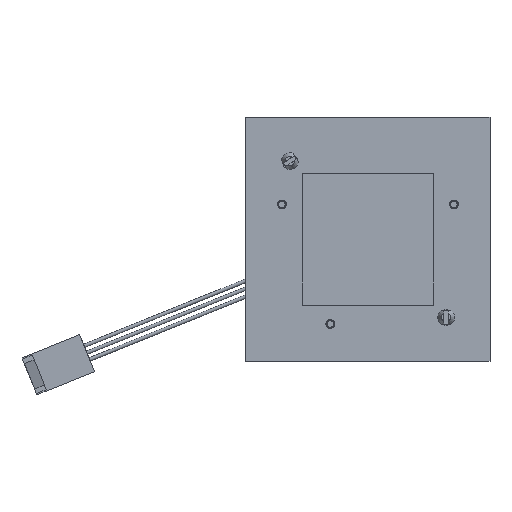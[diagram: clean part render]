
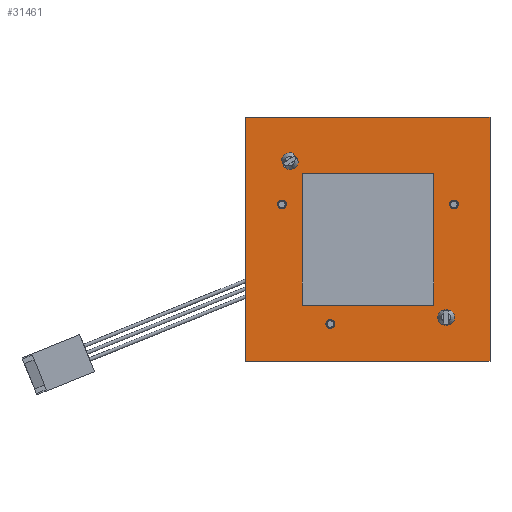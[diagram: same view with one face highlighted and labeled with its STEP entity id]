
A CAD part, front view. The second image highlights one B-rep face of the part: STEP entity #31461.
In plain terms, the highlighted planar face has unit normal (0, -1, 0).
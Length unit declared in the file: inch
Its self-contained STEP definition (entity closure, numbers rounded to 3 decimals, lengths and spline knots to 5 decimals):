
#90 = EDGE_CURVE ( 'NONE', #49510, #49023, #33664, .T. ) ;
#411 = EDGE_CURVE ( 'NONE', #20457, #46184, #40601, .T. ) ;
#518 = EDGE_LOOP ( 'NONE', ( #16531, #42469 ) ) ;
#2352 = ORIENTED_EDGE ( 'NONE', *, *, #411, .F. ) ;
#3234 = VERTEX_POINT ( 'NONE', #24237 ) ;
#4341 = EDGE_LOOP ( 'NONE', ( #7838, #54351 ) ) ;
#5197 = VERTEX_POINT ( 'NONE', #35905 ) ;
#5332 = DIRECTION ( 'NONE',  ( 0., -1., 0. ) ) ;
#5430 = LINE ( 'NONE', #24165, #25992 ) ;
#5472 = EDGE_CURVE ( 'NONE', #57786, #39469, #18585, .T. ) ;
#5659 = DIRECTION ( 'NONE',  ( 0., 0., -1. ) ) ;
#6085 = AXIS2_PLACEMENT_3D ( 'NONE', #47911, #38636, #5659 ) ;
#6506 = DIRECTION ( 'NONE',  ( 0., 0., -1. ) ) ;
#7153 = EDGE_CURVE ( 'NONE', #46184, #20457, #42224, .T. ) ;
#7384 = DIRECTION ( 'NONE',  ( 0., -1., 0. ) ) ;
#7838 = ORIENTED_EDGE ( 'NONE', *, *, #39338, .F. ) ;
#8607 = CARTESIAN_POINT ( 'NONE',  ( 0.98425, 0.01969, 0.98425 ) ) ;
#8772 = DIRECTION ( 'NONE',  ( 0., 0., -1. ) ) ;
#8881 = AXIS2_PLACEMENT_3D ( 'NONE', #9531, #42543, #41606 ) ;
#9531 = CARTESIAN_POINT ( 'NONE',  ( 0.62997, 0.01969, -0.62997 ) ) ;
#9708 = DIRECTION ( 'NONE',  ( 0., -1., 0. ) ) ;
#9983 = DIRECTION ( 'NONE',  ( 0., -1., 0. ) ) ;
#10212 = CARTESIAN_POINT ( 'NONE',  ( 0.62997, 0.01969, -0.56698 ) ) ;
#11409 = VERTEX_POINT ( 'NONE', #32286 ) ;
#11524 = CIRCLE ( 'NONE', #45994, 0.03543 ) ;
#12170 = ORIENTED_EDGE ( 'NONE', *, *, #90, .F. ) ;
#12309 = DIRECTION ( 'NONE',  ( 0., 0., -1. ) ) ;
#12435 = CARTESIAN_POINT ( 'NONE',  ( -0.62999, 0.01969, 0.567 ) ) ;
#13036 = CARTESIAN_POINT ( 'NONE',  ( -0.30425, 0.01969, -0.64793 ) ) ;
#13214 = CIRCLE ( 'NONE', #49533, 0.03543 ) ;
#14027 = AXIS2_PLACEMENT_3D ( 'NONE', #40072, #44995, #12309 ) ;
#15681 = FACE_BOUND ( 'NONE', #19646, .T. ) ;
#15720 = CARTESIAN_POINT ( 'NONE',  ( 0.69356, 0.01969, 0.24478 ) ) ;
#16531 = ORIENTED_EDGE ( 'NONE', *, *, #5472, .F. ) ;
#17718 = CIRCLE ( 'NONE', #8881, 0.06299 ) ;
#18181 = EDGE_LOOP ( 'NONE', ( #26349, #37362, #52438, #24582 ) ) ;
#18585 = CIRCLE ( 'NONE', #38302, 0.03543 ) ;
#19126 = CARTESIAN_POINT ( 'NONE',  ( 0.98425, 0.01969, -0.98425 ) ) ;
#19646 = EDGE_LOOP ( 'NONE', ( #12170, #54230 ) ) ;
#19779 = AXIS2_PLACEMENT_3D ( 'NONE', #58427, #59363, #6506 ) ;
#20240 = PLANE ( 'NONE',  #54664 ) ;
#20457 = VERTEX_POINT ( 'NONE', #50336 ) ;
#20600 = CARTESIAN_POINT ( 'NONE',  ( 0.69356, 0.01969, 0.31565 ) ) ;
#21170 = FACE_OUTER_BOUND ( 'NONE', #18181, .T. ) ;
#21890 = AXIS2_PLACEMENT_3D ( 'NONE', #38901, #5332, #24364 ) ;
#22531 = CARTESIAN_POINT ( 'NONE',  ( 0.98425, 0.01969, 0.98425 ) ) ;
#22793 = EDGE_LOOP ( 'NONE', ( #25364, #49346 ) ) ;
#22804 = EDGE_CURVE ( 'NONE', #24248, #5197, #11524, .T. ) ;
#23156 = EDGE_CURVE ( 'NONE', #50526, #3234, #51812, .T. ) ;
#23949 = DIRECTION ( 'NONE',  ( -1., 0., 0. ) ) ;
#24165 = CARTESIAN_POINT ( 'NONE',  ( 0.98425, 0.01969, -0.98425 ) ) ;
#24237 = CARTESIAN_POINT ( 'NONE',  ( -0.69356, 0.01969, 0.24478 ) ) ;
#24248 = VERTEX_POINT ( 'NONE', #13036 ) ;
#24364 = DIRECTION ( 'NONE',  ( 0., 0., -1. ) ) ;
#24582 = ORIENTED_EDGE ( 'NONE', *, *, #32607, .T. ) ;
#25364 = ORIENTED_EDGE ( 'NONE', *, *, #28669, .F. ) ;
#25422 = ORIENTED_EDGE ( 'NONE', *, *, #7153, .F. ) ;
#25992 = VECTOR ( 'NONE', #53535, 39.37008 ) ;
#26140 = DIRECTION ( 'NONE',  ( 0., 0., -1. ) ) ;
#26349 = ORIENTED_EDGE ( 'NONE', *, *, #42124, .T. ) ;
#27118 = VERTEX_POINT ( 'NONE', #22531 ) ;
#28669 = EDGE_CURVE ( 'NONE', #3234, #50526, #13214, .T. ) ;
#31461 = ADVANCED_FACE ( 'NONE', ( #40074, #15681, #58052, #34189, #34488, #21170 ), #20240, .T. ) ;
#32286 = CARTESIAN_POINT ( 'NONE',  ( -0.98425, 0.01969, 0.98425 ) ) ;
#32607 = EDGE_CURVE ( 'NONE', #50185, #58339, #52176, .T. ) ;
#33664 = CIRCLE ( 'NONE', #19779, 0.06299 ) ;
#34189 = FACE_BOUND ( 'NONE', #4341, .T. ) ;
#34348 = CARTESIAN_POINT ( 'NONE',  ( -0.98425, 0.01969, -0.98425 ) ) ;
#34488 = FACE_BOUND ( 'NONE', #518, .T. ) ;
#34802 = DIRECTION ( 'NONE',  ( 0., 0., -1. ) ) ;
#35905 = CARTESIAN_POINT ( 'NONE',  ( -0.30425, 0.01969, -0.71879 ) ) ;
#37362 = ORIENTED_EDGE ( 'NONE', *, *, #50531, .T. ) ;
#38302 = AXIS2_PLACEMENT_3D ( 'NONE', #51943, #9708, #8772 ) ;
#38636 = DIRECTION ( 'NONE',  ( 0., -1., 0. ) ) ;
#38887 = DIRECTION ( 'NONE',  ( 0., -1., 0. ) ) ;
#38901 = CARTESIAN_POINT ( 'NONE',  ( -0.30425, 0.01969, -0.68336 ) ) ;
#39338 = EDGE_CURVE ( 'NONE', #5197, #24248, #46655, .T. ) ;
#39440 = CARTESIAN_POINT ( 'NONE',  ( 0., 0.01969, 0. ) ) ;
#39469 = VERTEX_POINT ( 'NONE', #20600 ) ;
#39832 = CARTESIAN_POINT ( 'NONE',  ( 0.62997, 0.01969, -0.69296 ) ) ;
#40003 = AXIS2_PLACEMENT_3D ( 'NONE', #49660, #7384, #26140 ) ;
#40072 = CARTESIAN_POINT ( 'NONE',  ( -0.62999, 0.01969, 0.62999 ) ) ;
#40074 = FACE_BOUND ( 'NONE', #56542, .T. ) ;
#40601 = CIRCLE ( 'NONE', #14027, 0.06299 ) ;
#41606 = DIRECTION ( 'NONE',  ( 0., 0., -1. ) ) ;
#42043 = EDGE_CURVE ( 'NONE', #11409, #50185, #47692, .T. ) ;
#42124 = EDGE_CURVE ( 'NONE', #58339, #27118, #5430, .T. ) ;
#42224 = CIRCLE ( 'NONE', #43177, 0.06299 ) ;
#42469 = ORIENTED_EDGE ( 'NONE', *, *, #51159, .F. ) ;
#42543 = DIRECTION ( 'NONE',  ( 0., -1., 0. ) ) ;
#42826 = VECTOR ( 'NONE', #53234, 39.37008 ) ;
#43177 = AXIS2_PLACEMENT_3D ( 'NONE', #44139, #38887, #57805 ) ;
#43906 = VECTOR ( 'NONE', #60343, 39.37008 ) ;
#44139 = CARTESIAN_POINT ( 'NONE',  ( -0.62999, 0.01969, 0.62999 ) ) ;
#44995 = DIRECTION ( 'NONE',  ( 0., -1., 0. ) ) ;
#45077 = DIRECTION ( 'NONE',  ( 0., 0., -1. ) ) ;
#45994 = AXIS2_PLACEMENT_3D ( 'NONE', #58440, #9983, #45077 ) ;
#46184 = VERTEX_POINT ( 'NONE', #12435 ) ;
#46655 = CIRCLE ( 'NONE', #21890, 0.03543 ) ;
#47692 = LINE ( 'NONE', #34348, #42826 ) ;
#47911 = CARTESIAN_POINT ( 'NONE',  ( 0.69356, 0.01969, 0.28022 ) ) ;
#48441 = CIRCLE ( 'NONE', #6085, 0.03543 ) ;
#48580 = CARTESIAN_POINT ( 'NONE',  ( -0.69356, 0.01969, 0.28022 ) ) ;
#49023 = VERTEX_POINT ( 'NONE', #39832 ) ;
#49346 = ORIENTED_EDGE ( 'NONE', *, *, #23156, .F. ) ;
#49510 = VERTEX_POINT ( 'NONE', #10212 ) ;
#49533 = AXIS2_PLACEMENT_3D ( 'NONE', #48580, #58222, #57927 ) ;
#49633 = EDGE_CURVE ( 'NONE', #49023, #49510, #17718, .T. ) ;
#49660 = CARTESIAN_POINT ( 'NONE',  ( -0.69356, 0.01969, 0.28022 ) ) ;
#50185 = VERTEX_POINT ( 'NONE', #59458 ) ;
#50336 = CARTESIAN_POINT ( 'NONE',  ( -0.62999, 0.01969, 0.69299 ) ) ;
#50526 = VERTEX_POINT ( 'NONE', #60893 ) ;
#50531 = EDGE_CURVE ( 'NONE', #27118, #11409, #55872, .T. ) ;
#51159 = EDGE_CURVE ( 'NONE', #39469, #57786, #48441, .T. ) ;
#51743 = CARTESIAN_POINT ( 'NONE',  ( 0.98425, 0.01969, -0.98425 ) ) ;
#51812 = CIRCLE ( 'NONE', #40003, 0.03543 ) ;
#51943 = CARTESIAN_POINT ( 'NONE',  ( 0.69356, 0.01969, 0.28022 ) ) ;
#52176 = LINE ( 'NONE', #19126, #43906 ) ;
#52438 = ORIENTED_EDGE ( 'NONE', *, *, #42043, .T. ) ;
#53234 = DIRECTION ( 'NONE',  ( 0., 0., -1. ) ) ;
#53535 = DIRECTION ( 'NONE',  ( 0., 0., 1. ) ) ;
#53988 = DIRECTION ( 'NONE',  ( 0., -1., 0. ) ) ;
#54230 = ORIENTED_EDGE ( 'NONE', *, *, #49633, .F. ) ;
#54281 = VECTOR ( 'NONE', #23949, 39.37008 ) ;
#54351 = ORIENTED_EDGE ( 'NONE', *, *, #22804, .F. ) ;
#54664 = AXIS2_PLACEMENT_3D ( 'NONE', #39440, #53988, #34802 ) ;
#55872 = LINE ( 'NONE', #8607, #54281 ) ;
#56542 = EDGE_LOOP ( 'NONE', ( #2352, #25422 ) ) ;
#57786 = VERTEX_POINT ( 'NONE', #15720 ) ;
#57805 = DIRECTION ( 'NONE',  ( 0., 0., -1. ) ) ;
#57927 = DIRECTION ( 'NONE',  ( 0., 0., -1. ) ) ;
#58052 = FACE_BOUND ( 'NONE', #22793, .T. ) ;
#58222 = DIRECTION ( 'NONE',  ( 0., -1., 0. ) ) ;
#58339 = VERTEX_POINT ( 'NONE', #51743 ) ;
#58427 = CARTESIAN_POINT ( 'NONE',  ( 0.62997, 0.01969, -0.62997 ) ) ;
#58440 = CARTESIAN_POINT ( 'NONE',  ( -0.30425, 0.01969, -0.68336 ) ) ;
#59363 = DIRECTION ( 'NONE',  ( 0., -1., 0. ) ) ;
#59458 = CARTESIAN_POINT ( 'NONE',  ( -0.98425, 0.01969, -0.98425 ) ) ;
#60343 = DIRECTION ( 'NONE',  ( 1., 0., 0. ) ) ;
#60893 = CARTESIAN_POINT ( 'NONE',  ( -0.69356, 0.01969, 0.31565 ) ) ;
